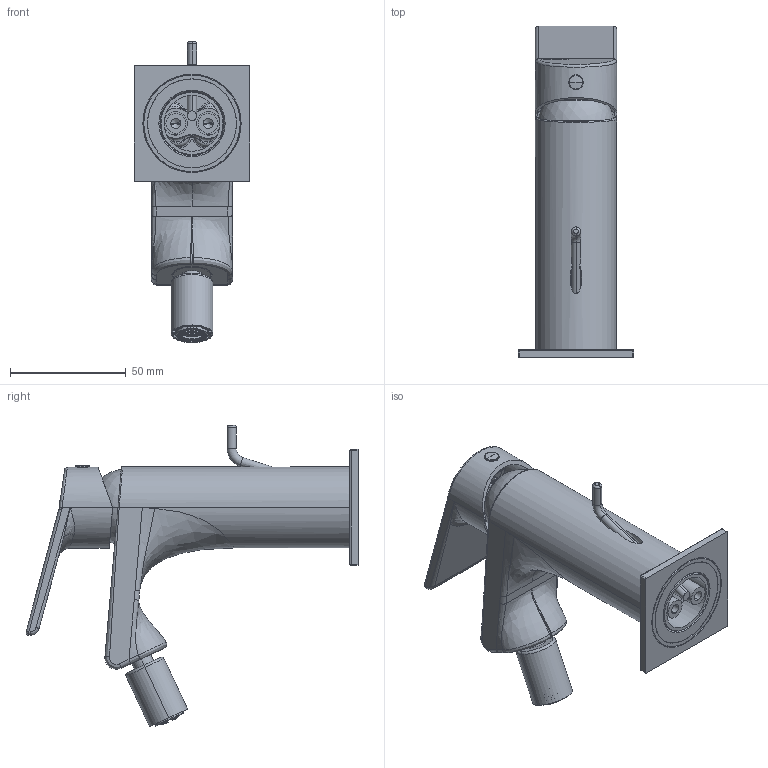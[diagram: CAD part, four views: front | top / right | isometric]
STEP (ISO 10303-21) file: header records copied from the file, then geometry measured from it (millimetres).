
FILE_DESCRIPTION((''),'2;1');
FILE_NAME('74103_SW0001','2025-10-08T11:36:14',('carloff'),(''),'CREO PARAMETRIC BY PTC INC, 2022014','CREO PARAMETRIC BY PTC INC, 2022014','');
FILE_SCHEMA(('CONFIG_CONTROL_DESIGN'));
Products named in the file (1): 74103_SW0001
Bounding box: 50 x 143.16 x 129.89 mm (x, y, z)
Volume: 101804.1 mm3; surface area: 73574.3 mm2
Topology: 3 solids, 3 shells, 3824 faces, 10835 edges, 7024 vertices
Faces by surface type: plane 2033, cylinder 621, torus 519, bspline 387, cone 103, sphere 94, extrusion 67
Entity records: 211515 total; most frequent: CARTESIAN_POINT 120440, ORIENTED_EDGE 21492, DIRECTION 15395, EDGE_CURVE 10746, VERTEX_POINT 7024, AXIS2_PLACEMENT_3D 5753, B_SPLINE_CURVE_WITH_KNOTS 4608, EDGE_LOOP 4238
